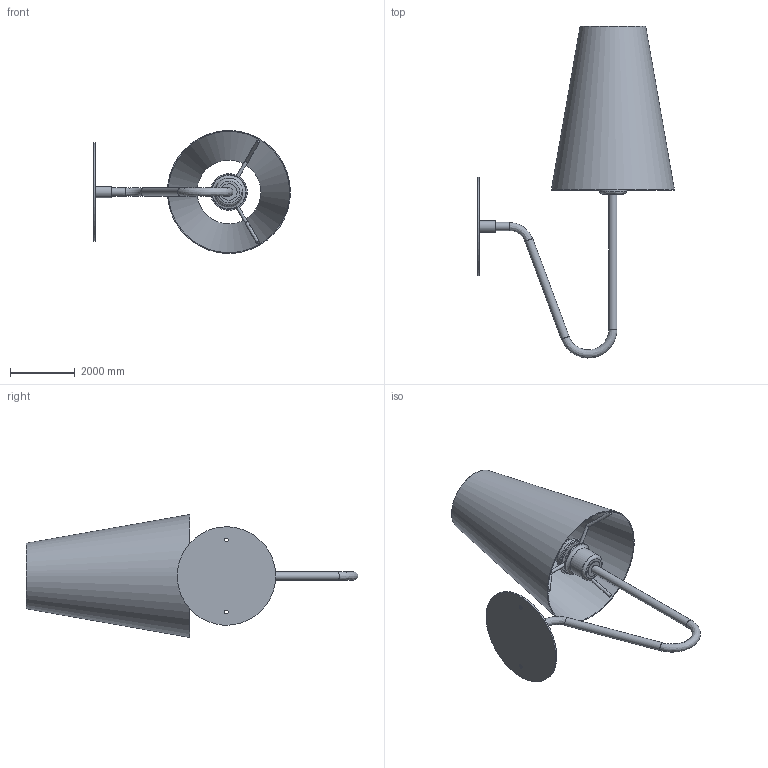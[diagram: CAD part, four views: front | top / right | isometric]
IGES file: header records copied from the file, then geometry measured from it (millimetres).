
Global section: file name: Scoop Wall Lamp; native system: AutoCAD 2022 - 简体中文 (Simplified Chinese),62HAuto; preprocessor: desk Translation Framework DWG producer (atf_dwg_producer); organization: unknown; date: 20260730.084057; units: inch
Bounding box: 6096 x 10285.04 x 3805.38 mm (x, y, z)
Volume: 2955373247 mm3; surface area: 139883827.4 mm2
Topology: 12 solids, 12 shells, 75 faces, 169 edges, 120 vertices
Faces by surface type: bspline 75
